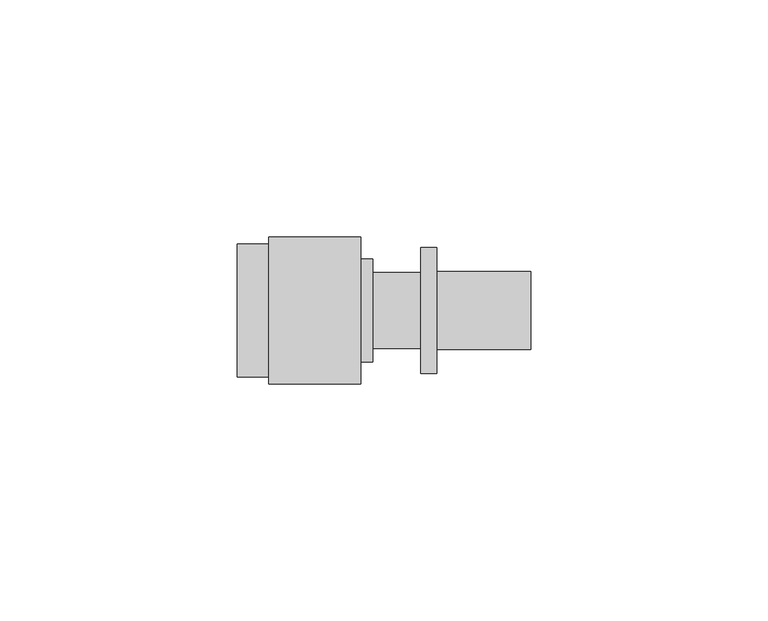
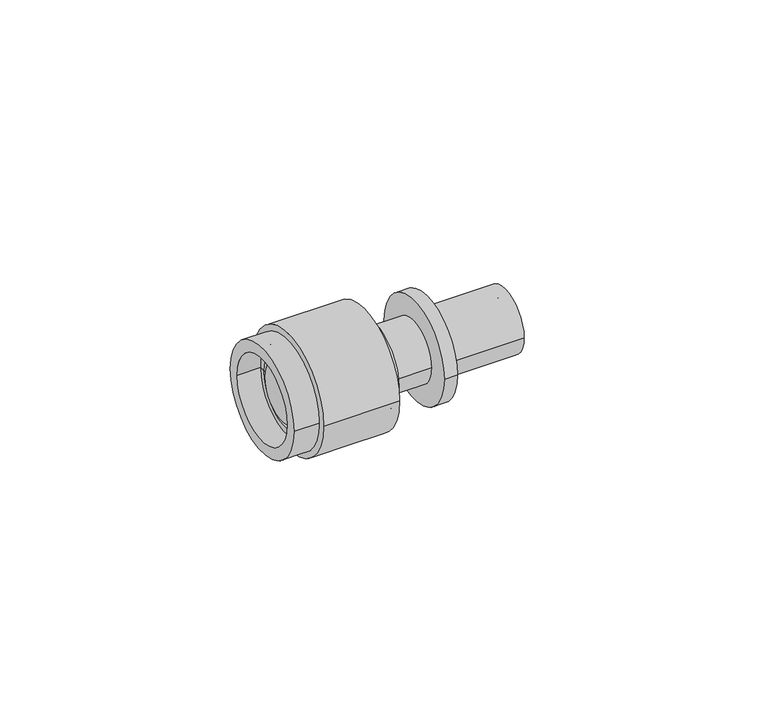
"""IFC4 building model written with IfcOpenShell, lengths in millimetres: pipe fitting geometry, REHAU_RAUTITAN_Adaptor RX+, MeplaFix : REHAU_RAUTITAN_Adaptor RX+, MeplaFix."""

from ifc_helpers import new_model, si_unit, point, frame, origin, origin_2d, place, context, project, spatial, polyline, circle_curve, trimmed, segment, composite_curve, outline, extrude, source, transform, mapped, element, save
from ifc_brep_helpers import plane_surface, cylinder_surface, revolved_surface, advanced_brep


def pipe_fitting_39c83d2c(model_context):
    return source(origin(), model_context, "Body", "SolidModel", [
        advanced_brep(
        [(-7.65, -15.5, 0.0), (-7.65, 15.5, 0.0), (-7.65, 12.7, 0.0), (-7.65, -12.7, 0.0), (-26.95, -15.5, 0.0), (-26.95, 15.5, 0.0), (-26.95, -9.3, 0.0), (-26.95, 9.3, 0.0), (-16.65, -12.7, 0.0), (-16.65, 12.7, 0.0), (-16.65, 10.5, 0.0), (-16.65, -10.5, 0.0), (-18.55, 10.5, 0.0), (-18.55, -10.5, 0.0), (-18.55, 8.7, 0.0), (-18.55, -8.7, 0.0), (-20.05, 8.7, 0.0), (-20.05, -8.7, 0.0), (-20.05, 10.7, 0.0), (-20.05, -10.7, 0.0), (-23.75, 10.7, 0.0), (-23.75, -10.7, 0.0), (-23.75, 9.3, 0.0), (-23.75, -9.3, 0.0)],
        [
            (0, 1, circle_curve(frame((-7.65, 0.0, 0.0), z_axis=(1.0, 0.0, 0.0), x_axis=(0.0, 1.0, 0.0)), 15.5)),
            (1, 0, circle_curve(frame((-7.65, 0.0, 0.0), z_axis=(1.0, 0.0, 0.0), x_axis=(0.0, 1.0, 0.0)), 15.5)),
            (2, 3, circle_curve(frame((-7.65, 0.0, 0.0), z_axis=(-1.0, 0.0, 0.0), x_axis=(0.0, 1.0, 0.0)), 12.7)),
            (3, 2, circle_curve(frame((-7.65, 0.0, 0.0), z_axis=(-1.0, 0.0, 0.0), x_axis=(0.0, 1.0, 0.0)), 12.7)),
            (4, 5, circle_curve(frame((-26.95, 0.0, 0.0), z_axis=(-1.0, 0.0, 0.0), x_axis=(0.0, 1.0, 0.0)), 15.5)),
            (5, 4, circle_curve(frame((-26.95, 0.0, 0.0), z_axis=(-1.0, 0.0, 0.0), x_axis=(0.0, 1.0, 0.0)), 15.5)),
            (6, 7, circle_curve(frame((-26.95, 0.0, 0.0), z_axis=(1.0, 0.0, 0.0), x_axis=(0.0, 1.0, 0.0)), 9.3)),
            (7, 6, circle_curve(frame((-26.95, 0.0, 0.0), z_axis=(1.0, 0.0, 0.0), x_axis=(0.0, 1.0, 0.0)), 9.3)),
            (0, 4),
            (5, 1),
            (8, 3),
            (2, 9),
            (9, 8, circle_curve(frame((-16.65, 0.0, 0.0), z_axis=(-1.0, 0.0, 0.0), x_axis=(0.0, 1.0, 0.0)), 12.7)),
            (8, 9, circle_curve(frame((-16.65, 0.0, 0.0), z_axis=(-1.0, 0.0, 0.0), x_axis=(0.0, 1.0, 0.0)), 12.7)),
            (9, 10),
            (10, 11, circle_curve(frame((-16.65, 0.0, 0.0), z_axis=(-1.0, 0.0, 0.0), x_axis=(0.0, 1.0, 0.0)), 10.5)),
            (11, 8),
            (11, 10, circle_curve(frame((-16.65, 0.0, 0.0), z_axis=(-1.0, 0.0, 0.0), x_axis=(0.0, 1.0, 0.0)), 10.5)),
            (10, 12),
            (12, 13, circle_curve(frame((-18.55, 0.0, 0.0), z_axis=(-1.0, 0.0, 0.0), x_axis=(0.0, 1.0, 0.0)), 10.5)),
            (13, 11),
            (13, 12, circle_curve(frame((-18.55, 0.0, 0.0), z_axis=(-1.0, 0.0, 0.0), x_axis=(0.0, 1.0, 0.0)), 10.5)),
            (12, 14),
            (14, 15, circle_curve(frame((-18.55, 0.0, 0.0), z_axis=(-1.0, 0.0, 0.0), x_axis=(0.0, 1.0, 0.0)), 8.7)),
            (15, 13),
            (15, 14, circle_curve(frame((-18.55, 0.0, 0.0), z_axis=(-1.0, 0.0, 0.0), x_axis=(0.0, 1.0, 0.0)), 8.7)),
            (14, 16),
            (16, 17, circle_curve(frame((-20.05, 0.0, 0.0), z_axis=(-1.0, 0.0, 0.0), x_axis=(0.0, 1.0, 0.0)), 8.7)),
            (17, 15),
            (17, 16, circle_curve(frame((-20.05, 0.0, 0.0), z_axis=(-1.0, 0.0, 0.0), x_axis=(0.0, 1.0, 0.0)), 8.7)),
            (16, 18),
            (18, 19, circle_curve(frame((-20.05, 0.0, 0.0), z_axis=(-1.0, 0.0, 0.0), x_axis=(0.0, 1.0, 0.0)), 10.7)),
            (19, 17),
            (19, 18, circle_curve(frame((-20.05, 0.0, 0.0), z_axis=(-1.0, 0.0, 0.0), x_axis=(0.0, 1.0, 0.0)), 10.7)),
            (18, 20),
            (20, 21, circle_curve(frame((-23.75, 0.0, 0.0), z_axis=(-1.0, 0.0, 0.0), x_axis=(0.0, 1.0, 0.0)), 10.7)),
            (21, 19),
            (21, 20, circle_curve(frame((-23.75, 0.0, 0.0), z_axis=(-1.0, 0.0, 0.0), x_axis=(0.0, 1.0, 0.0)), 10.7)),
            (20, 22),
            (22, 23, circle_curve(frame((-23.75, 0.0, 0.0), z_axis=(-1.0, 0.0, 0.0), x_axis=(0.0, 1.0, 0.0)), 9.3)),
            (23, 21),
            (23, 22, circle_curve(frame((-23.75, 0.0, 0.0), z_axis=(-1.0, 0.0, 0.0), x_axis=(0.0, 1.0, 0.0)), 9.3)),
            (22, 7),
            (6, 23),
        ],
        [
            plane_surface(frame((-7.65, 15.5, 0.0), z_axis=(1.0, 0.0, 0.0), x_axis=(0.0, 0.0, 1.0))),
            plane_surface(frame((-26.95, 15.5, 0.0), z_axis=(-1.0, 0.0, 0.0), x_axis=(0.0, 0.0, -1.0))),
            cylinder_surface(frame((-26.95, 0.0, 0.0), z_axis=(1.0, 0.0, 0.0), x_axis=(0.0, 1.0, 0.0)), 15.5),
            revolved_surface(polyline([(-16.65, 12.7, 0.0), (-7.65, 12.7, 0.0)]), (-7.65, 0.0, 0.0), (-1.0, 0.0, 0.0)),
            plane_surface(frame((-16.65, 0.0, 0.0), z_axis=(1.0, 0.0, 0.0), x_axis=(0.0, 1.0, 0.0))),
            revolved_surface(polyline([(-18.55, 10.5, 0.0), (-16.65, 10.5, 0.0)]), (-7.65, 0.0, 0.0), (-1.0, 0.0, 0.0)),
            plane_surface(frame((-18.55, 0.0, 0.0), z_axis=(1.0, 0.0, 0.0), x_axis=(0.0, 1.0, 0.0))),
            revolved_surface(polyline([(-20.05, 8.7, 0.0), (-18.55, 8.7, 0.0)]), (-7.65, 0.0, 0.0), (-1.0, 0.0, 0.0)),
            plane_surface(frame((-20.05, 0.0, 0.0), z_axis=(-1.0, 0.0, 0.0), x_axis=(0.0, 1.0, 0.0))),
            revolved_surface(polyline([(-23.75, 10.7, 0.0), (-20.05, 10.7, 0.0)]), (-7.65, 0.0, 0.0), (-1.0, 0.0, 0.0)),
            plane_surface(frame((-23.75, 0.0, 0.0), z_axis=(1.0, 0.0, 0.0), x_axis=(0.0, 1.0, 0.0))),
            revolved_surface(polyline([(-26.949999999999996, 9.3, 0.0), (-23.75, 9.3, 0.0)]), (-7.65, 0.0, 0.0), (-1.0, 0.0, 0.0)),
        ],
        [
            (0, [[1, 2], [3, 4]]),
            (1, [[5, 6], [7, 8]]),
            (2, [[-1, 9, -6, 10]]),
            (2, [[-2, -10, -5, -9]]),
            (3, [[11, -3, 12, 13]]),
            (3, [[-11, 14, -12, -4]]),
            (4, [[-13, 15, 16, 17]]),
            (4, [[-14, -17, 18, -15]]),
            (5, [[-16, 19, 20, 21]]),
            (5, [[-18, -21, 22, -19]]),
            (6, [[-20, 23, 24, 25]]),
            (6, [[-22, -25, 26, -23]]),
            (7, [[-24, 27, 28, 29]]),
            (7, [[-26, -29, 30, -27]]),
            (8, [[-28, 31, 32, 33]]),
            (8, [[-30, -33, 34, -31]]),
            (9, [[-32, 35, 36, 37]]),
            (9, [[-34, -37, 38, -35]]),
            (10, [[-36, 39, 40, 41]]),
            (10, [[-38, -41, 42, -39]]),
            (11, [[-40, 43, -7, 44]]),
            (11, [[-42, -44, -8, -43]]),
        ],
    ),
        advanced_brep(
        [(-26.95, -14.0, 0.0), (-26.95, 14.0, 0.0), (-26.95, 9.3, 0.0), (-26.95, -9.3, 0.0), (-33.65, -14.0, 0.0), (-33.65, 14.0, 0.0), (-33.65, -11.0, 0.0), (-33.65, 11.0, 0.0), (-27.75, -11.0, 0.0), (-27.75, 11.0, 0.0), (-27.75, 9.3, 0.0), (-27.75, -9.3, 0.0)],
        [
            (0, 1, circle_curve(frame((-26.95, 0.0, 0.0), z_axis=(1.0, 0.0, 0.0), x_axis=(0.0, 1.0, 0.0)), 14.0)),
            (1, 0, circle_curve(frame((-26.95, 0.0, 0.0), z_axis=(1.0, 0.0, 0.0), x_axis=(0.0, 1.0, 0.0)), 14.0)),
            (2, 3, circle_curve(frame((-26.95, 0.0, 0.0), z_axis=(-1.0, 0.0, 0.0), x_axis=(0.0, 1.0, 0.0)), 9.3)),
            (3, 2, circle_curve(frame((-26.95, 0.0, 0.0), z_axis=(-1.0, 0.0, 0.0), x_axis=(0.0, 1.0, 0.0)), 9.3)),
            (4, 5, circle_curve(frame((-33.65, 0.0, 0.0), z_axis=(-1.0, 0.0, 0.0), x_axis=(0.0, 1.0, 0.0)), 14.0)),
            (5, 4, circle_curve(frame((-33.65, 0.0, 0.0), z_axis=(-1.0, 0.0, 0.0), x_axis=(0.0, 1.0, 0.0)), 14.0)),
            (6, 7, circle_curve(frame((-33.65, 0.0, 0.0), z_axis=(1.0, 0.0, 0.0), x_axis=(0.0, 1.0, 0.0)), 11.0)),
            (7, 6, circle_curve(frame((-33.65, 0.0, 0.0), z_axis=(1.0, 0.0, 0.0), x_axis=(0.0, 1.0, 0.0)), 11.0)),
            (0, 4),
            (5, 1),
            (6, 8),
            (8, 9, circle_curve(frame((-27.75, 0.0, 0.0), z_axis=(1.0, 0.0, 0.0), x_axis=(0.0, 1.0, 0.0)), 11.0)),
            (9, 7),
            (9, 8, circle_curve(frame((-27.75, 0.0, 0.0), z_axis=(1.0, 0.0, 0.0), x_axis=(0.0, 1.0, 0.0)), 11.0)),
            (10, 11, circle_curve(frame((-27.75, 0.0, 0.0), z_axis=(-1.0, 0.0, 0.0), x_axis=(0.0, 1.0, 0.0)), 9.3)),
            (11, 3),
            (2, 10),
            (11, 10, circle_curve(frame((-27.75, 0.0, 0.0), z_axis=(-1.0, 0.0, 0.0), x_axis=(0.0, 1.0, 0.0)), 9.3)),
            (8, 11),
            (10, 9),
        ],
        [
            plane_surface(frame((-26.95, 14.0, 0.0), z_axis=(1.0, 0.0, 0.0), x_axis=(0.0, 0.0, 1.0))),
            plane_surface(frame((-33.65, 14.0, 0.0), z_axis=(-1.0, 0.0, 0.0), x_axis=(0.0, 0.0, -1.0))),
            cylinder_surface(frame((-33.65, 0.0, 0.0), z_axis=(1.0, 0.0, 0.0), x_axis=(0.0, 1.0, 0.0)), 14.0),
            revolved_surface(polyline([(-33.65, 11.0, 0.0), (-27.75, 11.0, 0.0)]), (-7.65, 0.0, 0.0), (-1.0, 0.0, 0.0)),
            revolved_surface(polyline([(-27.75, 9.3, 0.0), (-26.949999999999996, 9.3, 0.0)]), (-7.65, 0.0, 0.0), (-1.0, 0.0, 0.0)),
            plane_surface(frame((-27.75, 0.0, 0.0), z_axis=(-1.0, 0.0, 0.0), x_axis=(0.0, 1.0, 0.0))),
        ],
        [
            (0, [[1, 2], [3, 4]]),
            (1, [[5, 6], [7, 8]]),
            (2, [[-1, 9, -6, 10]]),
            (2, [[-2, -10, -5, -9]]),
            (3, [[11, 12, 13, -7]]),
            (3, [[-11, -8, -13, 14]]),
            (4, [[15, 16, -3, 17]]),
            (4, [[18, -17, -4, -16]]),
            (5, [[-12, 19, -15, 20]]),
            (5, [[-14, -20, -18, -19]]),
        ],
    ),
        extrude(outline(composite_curve([segment(trimmed(circle_curve(origin_2d(), 13.25), [point((-13.25, 0.0))], [point((13.25, 0.0))], False, "CARTESIAN"), True, "CONTINUOUS"), segment(trimmed(circle_curve(origin_2d(), 13.25), [point((13.25, 0.0))], [point((-13.25, 0.0))], False, "CARTESIAN"), True, "CONTINUOUS")], self_intersect=False)), frame((5.05, 0.0, 0.0), z_axis=(1.0, 0.0, 0.0), x_axis=(0.0, 1.0, 0.0)), (0.0, 0.0, 1.0), 3.35),
        extrude(outline(composite_curve([segment(trimmed(circle_curve(origin_2d(), 8.225), [point((-8.225, 0.0))], [point((8.225, 0.0))], False, "CARTESIAN"), True, "CONTINUOUS"), segment(trimmed(circle_curve(origin_2d(), 8.225), [point((8.225, 0.0))], [point((-8.225, 0.0))], False, "CARTESIAN"), True, "CONTINUOUS")], self_intersect=False), holes=[composite_curve([segment(trimmed(circle_curve(origin_2d(), 4.95), [point((-4.95, 0.0))], [point((4.95, 0.0))], True, "CARTESIAN"), True, "CONTINUOUS"), segment(trimmed(circle_curve(origin_2d(), 4.95), [point((4.95, 0.0))], [point((-4.95, 0.0))], True, "CARTESIAN"), True, "CONTINUOUS")], self_intersect=False)]), frame((8.4, 0.0, 0.0), z_axis=(1.0, 0.0, 0.0), x_axis=(0.0, 1.0, 0.0)), (0.0, 0.0, 1.0), 19.84),
        extrude(outline(composite_curve([segment(trimmed(circle_curve(origin_2d(), 8.0), [point((-8.0, 0.0))], [point((8.0, 0.0))], False, "CARTESIAN"), True, "CONTINUOUS"), segment(trimmed(circle_curve(origin_2d(), 8.0), [point((8.0, 0.0))], [point((-8.0, 0.0))], False, "CARTESIAN"), True, "CONTINUOUS")], self_intersect=False), holes=[composite_curve([segment(trimmed(circle_curve(origin_2d(), 4.95), [point((-4.95, 0.0))], [point((4.95, 0.0))], True, "CARTESIAN"), True, "CONTINUOUS"), segment(trimmed(circle_curve(origin_2d(), 4.95), [point((4.95, 0.0))], [point((-4.95, 0.0))], True, "CARTESIAN"), True, "CONTINUOUS")], self_intersect=False)]), frame((-5.05, 0.0, 0.0), z_axis=(1.0, 0.0, 0.0), x_axis=(0.0, 1.0, 0.0)), (0.0, 0.0, 1.0), 10.1),
        extrude(outline(composite_curve([segment(trimmed(circle_curve(origin_2d(), 10.85), [point((-10.85, 0.0))], [point((10.85, 0.0))], False, "CARTESIAN"), True, "CONTINUOUS"), segment(trimmed(circle_curve(origin_2d(), 10.85), [point((10.85, 0.0))], [point((-10.85, 0.0))], False, "CARTESIAN"), True, "CONTINUOUS")], self_intersect=False)), frame((-7.65, 0.0, 0.0), z_axis=(1.0, 0.0, 0.0), x_axis=(0.0, 1.0, 0.0)), (0.0, 0.0, 1.0), 2.6),
        extrude(outline(composite_curve([segment(trimmed(circle_curve(origin_2d(), 7.4), [point((-7.4, 0.0))], [point((7.4, 0.0))], False, "CARTESIAN"), True, "CONTINUOUS"), segment(trimmed(circle_curve(origin_2d(), 7.4), [point((7.4, 0.0))], [point((-7.4, 0.0))], False, "CARTESIAN"), True, "CONTINUOUS")], self_intersect=False)), frame((-16.13, 0.0, 0.0), z_axis=(1.0, 0.0, 0.0), x_axis=(0.0, 1.0, 0.0)), (0.0, 0.0, 1.0), 8.48),
        extrude(outline(composite_curve([segment(trimmed(circle_curve(origin_2d(), 6.35), [point((-6.35, 0.0))], [point((6.35, 0.0))], False, "CARTESIAN"), True, "CONTINUOUS"), segment(trimmed(circle_curve(origin_2d(), 6.35), [point((6.35, 0.0))], [point((-6.35, 0.0))], False, "CARTESIAN"), True, "CONTINUOUS")], self_intersect=False)), frame((-18.1, 0.0, 0.0), z_axis=(1.0, 0.0, 0.0), x_axis=(0.0, 1.0, 0.0)), (0.0, 0.0, 1.0), 1.97),
        extrude(outline(composite_curve([segment(trimmed(circle_curve(origin_2d(), 7.4), [point((-7.4, 0.0))], [point((7.4, 0.0))], False, "CARTESIAN"), True, "CONTINUOUS"), segment(trimmed(circle_curve(origin_2d(), 7.4), [point((7.4, 0.0))], [point((-7.4, 0.0))], False, "CARTESIAN"), True, "CONTINUOUS")], self_intersect=False)), frame((-28.64, 0.0, 0.0), z_axis=(1.0, 0.0, 0.0), x_axis=(0.0, 1.0, 0.0)), (0.0, 0.0, 1.0), 10.54),
    ])


if __name__ == "__main__":
    model = new_model("IFC4")
    model_context = context("Model", 3, world=origin())
    ifc_project = project(units=[si_unit("LENGTHUNIT", "METRE", prefix="MILLI")], contexts=[model_context])
    site = spatial("IfcSite", under=ifc_project)
    building = spatial("IfcBuilding", under=site)
    placement = place(None, origin())
    pipe_fitting_shape = pipe_fitting_39c83d2c(model_context)
    element("IfcPipeFitting", 1, ObjectType="REHAU_RAUTITAN_Adaptor RX+, MeplaFix : REHAU_RAUTITAN_Adaptor RX+, MeplaFix", at=placement, inside=building, context=model_context, shape_type="MappedRepresentation", body=[
        mapped(pipe_fitting_shape, transform((0.0, 0.0, 0.0), x_axis=(1.0, 0.0, 0.0), y_axis=(0.0, 1.0, 0.0), z_axis=(0.0, 0.0, 1.0))),
    ])
    save(model, "model.ifc")
